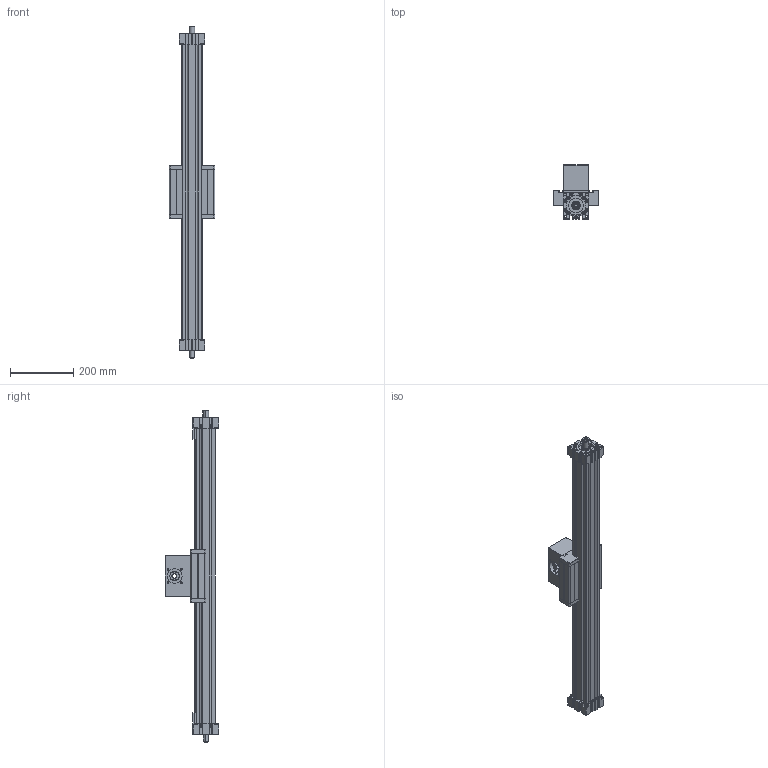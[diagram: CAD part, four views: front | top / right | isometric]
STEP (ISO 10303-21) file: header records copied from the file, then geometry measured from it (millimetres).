
FILE_DESCRIPTION (( 'STEP AP214' ), '1' );
FILE_NAME ('ELSD60.STEP', '2022-07-21T11:15:06', ( '' ), ( '' ), 'SwSTEP 2.0', 'SolidWorks 2020', '' );
FILE_SCHEMA (( 'AUTOMOTIVE_DESIGN' ));
Length unit declared in the file: millimetre
Products named in the file (6): load block^ELSD60_4x guide rods; carriage^ELSD60_carriage version 0; ELSD60; drive block^ELSD60_1; timing belt reverse unit^ELSD60_coupling claw pos.1; profile^ELSD60_2x guide rods
Assembly tree (5 placements, depth 2):
  ELSD60
    profile^ELSD60_2x guide rods
    carriage^ELSD60_carriage version 0
    timing belt reverse unit^ELSD60_coupling claw pos.1
    load block^ELSD60_4x guide rods
    drive block^ELSD60_1
Bounding box: 144 x 170 x 1050 mm (x, y, z)
Volume: 4019897.4 mm3; surface area: 800933.2 mm2
Topology: 14 solids, 14 shells, 1121 faces, 3111 edges, 2042 vertices
Faces by surface type: plane 787, cylinder 274, cone 48, torus 8, sphere 4
Entity records: 36851 total; most frequent: CARTESIAN_POINT 6470, ORIENTED_EDGE 6214, DIRECTION 5985, EDGE_CURVE 3107, LINE 2431, VECTOR 2431, VERTEX_POINT 2042, AXIS2_PLACEMENT_3D 1777
